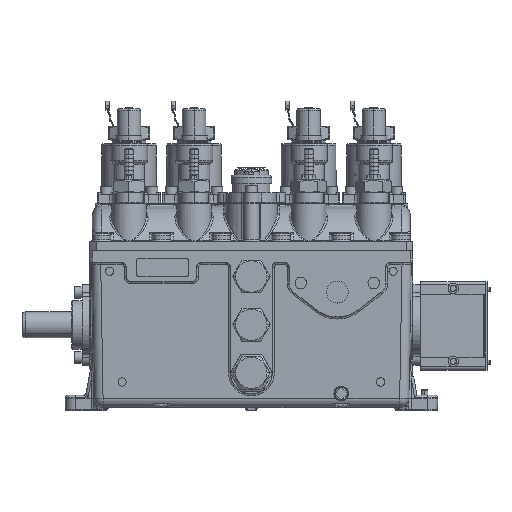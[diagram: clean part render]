
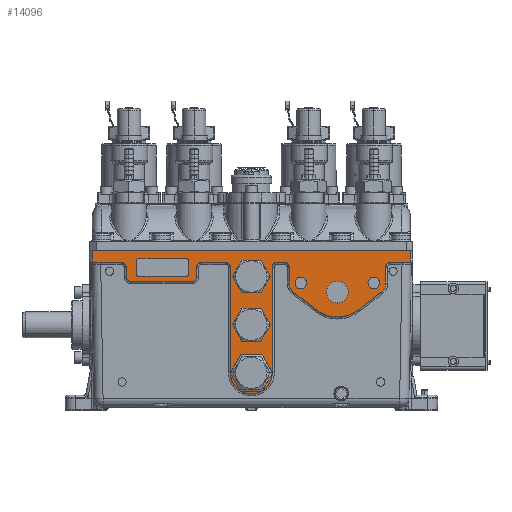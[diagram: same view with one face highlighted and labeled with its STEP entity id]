
A CAD part, top view. The second image highlights one B-rep face of the part: STEP entity #14096.
In plain terms, the highlighted planar face has unit normal (0, 0, 1).
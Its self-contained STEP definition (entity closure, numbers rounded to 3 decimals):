
#121=DIRECTION('',(1.,0.,0.));
#122=VECTOR('',#121,0.943);
#123=CARTESIAN_POINT('',(6.688,6.965,5.525));
#124=LINE('',#123,#122);
#129=DIRECTION('',(1.,0.,0.));
#130=VECTOR('',#129,0.313);
#131=CARTESIAN_POINT('',(1.25,6.965,5.525));
#132=LINE('',#131,#130);
#137=DIRECTION('',(1.,0.,0.));
#138=VECTOR('',#137,1.125);
#139=CARTESIAN_POINT('',(-2.375,6.965,5.525));
#140=LINE('',#139,#138);
#145=DIRECTION('',(1.,0.,0.));
#146=VECTOR('',#145,1.38);
#147=CARTESIAN_POINT('',(-7.63,6.965,5.525));
#148=LINE('',#147,#146);
#787=DIRECTION('',(0.,-1.,0.));
#788=VECTOR('',#787,0.75);
#789=CARTESIAN_POINT('',(1.813,6.715,5.525));
#790=LINE('',#789,#788);
#814=DIRECTION('',(0.792,-0.61,0.));
#815=VECTOR('',#814,1.387);
#816=CARTESIAN_POINT('',(2.032,5.519,5.525));
#817=LINE('',#816,#815);
#846=DIRECTION('',(0.792,0.61,0.));
#847=VECTOR('',#846,1.387);
#848=CARTESIAN_POINT('',(5.119,4.673,5.525));
#849=LINE('',#848,#847);
#877=DIRECTION('',(0.,1.,0.));
#878=VECTOR('',#877,0.75);
#879=CARTESIAN_POINT('',(6.438,5.965,5.525));
#880=LINE('',#879,#878);
#889=DIRECTION('',(0.,-1.,0.));
#890=VECTOR('',#889,5.062);
#891=CARTESIAN_POINT('',(-1.,6.715,5.525));
#892=LINE('',#891,#890);
#921=DIRECTION('',(0.,1.,0.));
#922=VECTOR('',#921,5.062);
#923=CARTESIAN_POINT('',(1.,1.653,5.525));
#924=LINE('',#923,#922);
#1046=DIRECTION('',(0.,-1.,0.));
#1047=VECTOR('',#1046,0.437);
#1048=CARTESIAN_POINT('',(-6.,6.715,5.525));
#1049=LINE('',#1048,#1047);
#1054=DIRECTION('',(1.,0.,0.));
#1055=VECTOR('',#1054,2.875);
#1056=CARTESIAN_POINT('',(-5.75,6.028,5.525));
#1057=LINE('',#1056,#1055);
#1062=DIRECTION('',(0.,1.,0.));
#1063=VECTOR('',#1062,0.437);
#1064=CARTESIAN_POINT('',(-2.625,6.278,5.525));
#1065=LINE('',#1064,#1063);
#4794=DIRECTION('',(-1.,0.,0.));
#4795=VECTOR('',#4794,15.26);
#4796=CARTESIAN_POINT('',(7.63,7.531,5.525));
#4797=LINE('',#4796,#4795);
#4878=CARTESIAN_POINT('',(0.,1.653,5.525));
#4879=DIRECTION('',(0.,0.,-1.));
#4880=DIRECTION('',(1.,0.,0.));
#4881=AXIS2_PLACEMENT_3D('',#4878,#4879,#4880);
#4883=CARTESIAN_POINT('',(-1.25,6.715,5.525));
#4884=DIRECTION('',(0.,0.,-1.));
#4885=DIRECTION('',(0.,1.,0.));
#4886=AXIS2_PLACEMENT_3D('',#4883,#4884,#4885);
#4888=CARTESIAN_POINT('',(-2.375,6.715,5.525));
#4889=DIRECTION('',(0.,0.,1.));
#4890=DIRECTION('',(0.,1.,0.));
#4891=AXIS2_PLACEMENT_3D('',#4888,#4889,#4890);
#4893=CARTESIAN_POINT('',(-2.875,6.278,5.525));
#4894=DIRECTION('',(0.,0.,-1.));
#4895=DIRECTION('',(1.,0.,0.));
#4896=AXIS2_PLACEMENT_3D('',#4893,#4894,#4895);
#4898=CARTESIAN_POINT('',(-5.75,6.278,5.525));
#4899=DIRECTION('',(0.,0.,-1.));
#4900=DIRECTION('',(0.,-1.,0.));
#4901=AXIS2_PLACEMENT_3D('',#4898,#4899,#4900);
#4903=CARTESIAN_POINT('',(-6.25,6.715,5.525));
#4904=DIRECTION('',(0.,0.,-1.));
#4905=DIRECTION('',(0.,1.,0.));
#4906=AXIS2_PLACEMENT_3D('',#4903,#4904,#4905);
#4908=CARTESIAN_POINT('',(6.688,6.715,5.525));
#4909=DIRECTION('',(0.,0.,1.));
#4910=DIRECTION('',(0.,1.,0.));
#4911=AXIS2_PLACEMENT_3D('',#4908,#4909,#4910);
#4913=CARTESIAN_POINT('',(5.875,5.965,5.525));
#4914=DIRECTION('',(0.,0.,1.));
#4915=DIRECTION('',(0.61,-0.792,0.));
#4916=AXIS2_PLACEMENT_3D('',#4913,#4914,#4915);
#4918=CARTESIAN_POINT('',(4.125,5.965,5.525));
#4919=DIRECTION('',(0.,0.,1.));
#4920=DIRECTION('',(-0.61,-0.792,0.));
#4921=AXIS2_PLACEMENT_3D('',#4918,#4919,#4920);
#4923=CARTESIAN_POINT('',(2.375,5.965,5.525));
#4924=DIRECTION('',(0.,0.,1.));
#4925=DIRECTION('',(-1.,0.,0.));
#4926=AXIS2_PLACEMENT_3D('',#4923,#4924,#4925);
#4928=CARTESIAN_POINT('',(1.563,6.715,5.525));
#4929=DIRECTION('',(0.,0.,-1.));
#4930=DIRECTION('',(0.,1.,0.));
#4931=AXIS2_PLACEMENT_3D('',#4928,#4929,#4930);
#4933=CARTESIAN_POINT('',(1.25,6.715,5.525));
#4934=DIRECTION('',(0.,0.,1.));
#4935=DIRECTION('',(0.,1.,0.));
#4936=AXIS2_PLACEMENT_3D('',#4933,#4934,#4935);
#5447=DIRECTION('',(0.,1.,0.));
#5448=VECTOR('',#5447,0.566);
#5449=CARTESIAN_POINT('',(-7.63,6.965,5.525));
#5450=LINE('',#5449,#5448);
#5463=DIRECTION('',(0.,1.,0.));
#5464=VECTOR('',#5463,0.566);
#5465=CARTESIAN_POINT('',(7.63,6.965,5.525));
#5466=LINE('',#5465,#5464);
#5870=CARTESIAN_POINT('',(7.63,7.531,5.525));
#5871=CARTESIAN_POINT('',(-7.63,7.531,5.525));
#5872=VERTEX_POINT('',#5870);
#5873=VERTEX_POINT('',#5871);
#5878=CARTESIAN_POINT('',(6.688,6.965,5.525));
#5879=CARTESIAN_POINT('',(7.63,6.965,5.525));
#5880=VERTEX_POINT('',#5878);
#5881=VERTEX_POINT('',#5879);
#5882=CARTESIAN_POINT('',(1.25,6.965,5.525));
#5883=CARTESIAN_POINT('',(1.563,6.965,5.525));
#5884=VERTEX_POINT('',#5882);
#5885=VERTEX_POINT('',#5883);
#5886=CARTESIAN_POINT('',(-2.375,6.965,5.525));
#5887=CARTESIAN_POINT('',(-1.25,6.965,5.525));
#5888=VERTEX_POINT('',#5886);
#5889=VERTEX_POINT('',#5887);
#5890=CARTESIAN_POINT('',(-7.63,6.965,5.525));
#5891=CARTESIAN_POINT('',(-6.25,6.965,5.525));
#5892=VERTEX_POINT('',#5890);
#5893=VERTEX_POINT('',#5891);
#5894=CARTESIAN_POINT('',(1.813,6.715,5.525));
#5895=CARTESIAN_POINT('',(1.813,5.965,5.525));
#5896=VERTEX_POINT('',#5894);
#5897=VERTEX_POINT('',#5895);
#5898=CARTESIAN_POINT('',(2.032,5.519,5.525));
#5899=VERTEX_POINT('',#5898);
#5900=CARTESIAN_POINT('',(3.131,4.673,5.525));
#5901=VERTEX_POINT('',#5900);
#5902=CARTESIAN_POINT('',(5.119,4.673,5.525));
#5903=VERTEX_POINT('',#5902);
#5904=CARTESIAN_POINT('',(6.218,5.519,5.525));
#5905=VERTEX_POINT('',#5904);
#5906=CARTESIAN_POINT('',(6.438,5.965,5.525));
#5907=VERTEX_POINT('',#5906);
#5908=CARTESIAN_POINT('',(6.438,6.715,5.525));
#5909=VERTEX_POINT('',#5908);
#5910=CARTESIAN_POINT('',(-1.,6.715,5.525));
#5911=CARTESIAN_POINT('',(-1.,1.653,5.525));
#5912=VERTEX_POINT('',#5910);
#5913=VERTEX_POINT('',#5911);
#5914=CARTESIAN_POINT('',(1.,1.653,5.525));
#5915=CARTESIAN_POINT('',(1.,6.715,5.525));
#5916=VERTEX_POINT('',#5914);
#5917=VERTEX_POINT('',#5915);
#5918=CARTESIAN_POINT('',(-6.,6.715,5.525));
#5919=CARTESIAN_POINT('',(-6.,6.278,5.525));
#5920=VERTEX_POINT('',#5918);
#5921=VERTEX_POINT('',#5919);
#5922=CARTESIAN_POINT('',(-5.75,6.028,5.525));
#5923=CARTESIAN_POINT('',(-2.875,6.028,5.525));
#5924=VERTEX_POINT('',#5922);
#5925=VERTEX_POINT('',#5923);
#5926=CARTESIAN_POINT('',(-2.625,6.278,5.525));
#5927=CARTESIAN_POINT('',(-2.625,6.715,5.525));
#5928=VERTEX_POINT('',#5926);
#5929=VERTEX_POINT('',#5927);
#14059=CARTESIAN_POINT('',(7.748,1.5,5.525));
#14060=DIRECTION('',(0.,0.,-1.));
#14061=DIRECTION('',(-1.,0.,0.));
#14062=AXIS2_PLACEMENT_3D('',#14059,#14060,#14061);
#14063=PLANE('',#14062);
#14064=ORIENTED_EDGE('',*,*,#6747,.T.);
#14065=ORIENTED_EDGE('',*,*,#6731,.F.);
#14066=ORIENTED_EDGE('',*,*,#7352,.F.);
#14067=ORIENTED_EDGE('',*,*,#6347,.F.);
#14068=ORIENTED_EDGE('',*,*,#7380,.T.);
#14069=ORIENTED_EDGE('',*,*,#6917,.F.);
#14070=ORIENTED_EDGE('',*,*,#7422,.T.);
#14071=ORIENTED_EDGE('',*,*,#6901,.F.);
#14072=ORIENTED_EDGE('',*,*,#7408,.T.);
#14073=ORIENTED_EDGE('',*,*,#6885,.F.);
#14074=ORIENTED_EDGE('',*,*,#7394,.F.);
#14075=ORIENTED_EDGE('',*,*,#6363,.F.);
#14077=ORIENTED_EDGE('',*,*,#14076,.T.);
#14078=ORIENTED_EDGE('',*,*,#13981,.F.);
#14080=ORIENTED_EDGE('',*,*,#14079,.F.);
#14081=ORIENTED_EDGE('',*,*,#6319,.F.);
#14082=ORIENTED_EDGE('',*,*,#7324,.T.);
#14083=ORIENTED_EDGE('',*,*,#6716,.F.);
#14084=ORIENTED_EDGE('',*,*,#6701,.F.);
#14085=ORIENTED_EDGE('',*,*,#6686,.F.);
#14086=ORIENTED_EDGE('',*,*,#6671,.F.);
#14087=ORIENTED_EDGE('',*,*,#6656,.F.);
#14088=ORIENTED_EDGE('',*,*,#6641,.F.);
#14089=ORIENTED_EDGE('',*,*,#6625,.F.);
#14090=ORIENTED_EDGE('',*,*,#7338,.F.);
#14091=ORIENTED_EDGE('',*,*,#6331,.F.);
#14092=ORIENTED_EDGE('',*,*,#7366,.T.);
#14093=ORIENTED_EDGE('',*,*,#6762,.F.);
#14094=EDGE_LOOP('',(#14064,#14065,#14066,#14067,#14068,#14069,#14070,#14071,
#14072,#14073,#14074,#14075,#14077,#14078,#14080,#14081,#14082,#14083,#14084,
#14085,#14086,#14087,#14088,#14089,#14090,#14091,#14092,#14093));
#14095=FACE_OUTER_BOUND('',#14094,.F.);
#14096=ADVANCED_FACE('',(#14095),#14063,.F.);
#4882=CIRCLE('',#4881,1.);
#4887=CIRCLE('',#4886,0.25);
#4892=CIRCLE('',#4891,0.25);
#4897=CIRCLE('',#4896,0.25);
#4902=CIRCLE('',#4901,0.25);
#4907=CIRCLE('',#4906,0.25);
#4912=CIRCLE('',#4911,0.25);
#4917=CIRCLE('',#4916,0.563);
#4922=CIRCLE('',#4921,1.63);
#4927=CIRCLE('',#4926,0.563);
#4932=CIRCLE('',#4931,0.25);
#4937=CIRCLE('',#4936,0.25);
#6319=EDGE_CURVE('',#5880,#5881,#124,.T.);
#6331=EDGE_CURVE('',#5884,#5885,#132,.T.);
#6347=EDGE_CURVE('',#5888,#5889,#140,.T.);
#6363=EDGE_CURVE('',#5892,#5893,#148,.T.);
#6625=EDGE_CURVE('',#5896,#5897,#790,.T.);
#6641=EDGE_CURVE('',#5897,#5899,#4927,.T.);
#6656=EDGE_CURVE('',#5899,#5901,#817,.T.);
#6671=EDGE_CURVE('',#5901,#5903,#4922,.T.);
#6686=EDGE_CURVE('',#5903,#5905,#849,.T.);
#6701=EDGE_CURVE('',#5905,#5907,#4917,.T.);
#6716=EDGE_CURVE('',#5907,#5909,#880,.T.);
#6731=EDGE_CURVE('',#5912,#5913,#892,.T.);
#6747=EDGE_CURVE('',#5916,#5913,#4882,.T.);
#6762=EDGE_CURVE('',#5916,#5917,#924,.T.);
#6885=EDGE_CURVE('',#5920,#5921,#1049,.T.);
#6901=EDGE_CURVE('',#5924,#5925,#1057,.T.);
#6917=EDGE_CURVE('',#5928,#5929,#1065,.T.);
#7324=EDGE_CURVE('',#5880,#5909,#4912,.T.);
#7338=EDGE_CURVE('',#5885,#5896,#4932,.T.);
#7352=EDGE_CURVE('',#5889,#5912,#4887,.T.);
#7366=EDGE_CURVE('',#5884,#5917,#4937,.T.);
#7380=EDGE_CURVE('',#5888,#5929,#4892,.T.);
#7394=EDGE_CURVE('',#5893,#5920,#4907,.T.);
#7408=EDGE_CURVE('',#5924,#5921,#4902,.T.);
#7422=EDGE_CURVE('',#5928,#5925,#4897,.T.);
#13981=EDGE_CURVE('',#5872,#5873,#4797,.T.);
#14076=EDGE_CURVE('',#5892,#5873,#5450,.T.);
#14079=EDGE_CURVE('',#5881,#5872,#5466,.T.);
